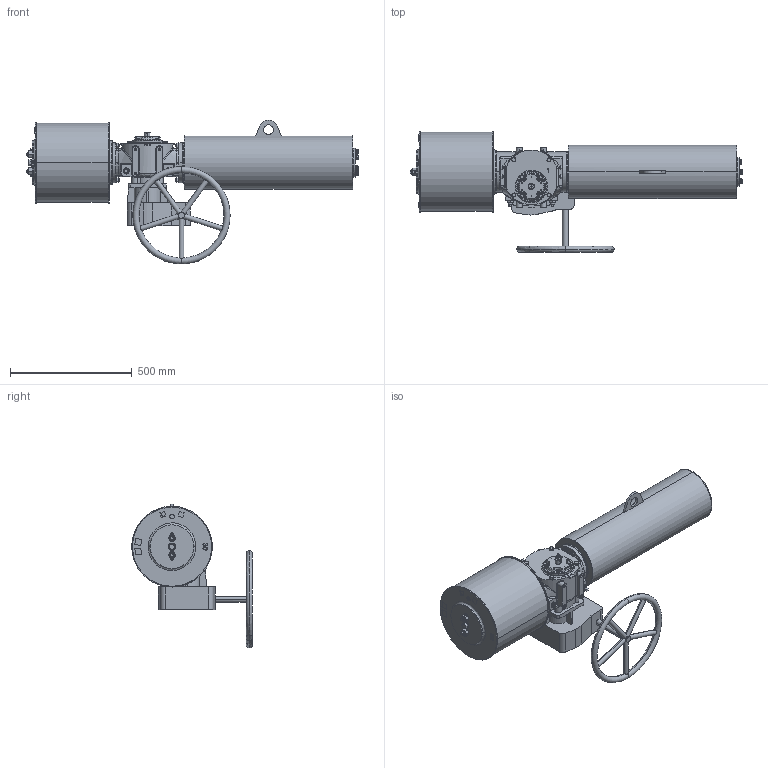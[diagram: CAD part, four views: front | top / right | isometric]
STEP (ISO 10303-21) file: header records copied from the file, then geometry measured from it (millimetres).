
FILE_DESCRIPTION (( 'STEP AP203' ), '1' );
FILE_NAME ('VTS1-300-SR-MW-FC.STEP', '2023-01-01T07:26:01', ( '' ), ( '' ), 'SwSTEP 2.0', 'SolidWorks 2020', '' );
FILE_SCHEMA (( 'CONFIG_CONTROL_DESIGN' ));
Length unit declared in the file: millimetre
Products named in the file (1): VTS1-300-SR-MW-FC
Bounding box: 1365.78 x 496.5 x 592 mm (x, y, z)
Volume: 67264307.6 mm3; surface area: 2080427.5 mm2
Topology: 9 solids, 15 shells, 2088 faces, 5480 edges, 3458 vertices
Faces by surface type: plane 781, cylinder 611, cone 407, bspline 227, torus 34, sphere 28
Entity records: 91062 total; most frequent: CARTESIAN_POINT 43180, ORIENTED_EDGE 10772, DIRECTION 8872, EDGE_CURVE 5386, VERTEX_POINT 3458, AXIS2_PLACEMENT_3D 3409, EDGE_LOOP 2294, FACE_OUTER_BOUND 2088
